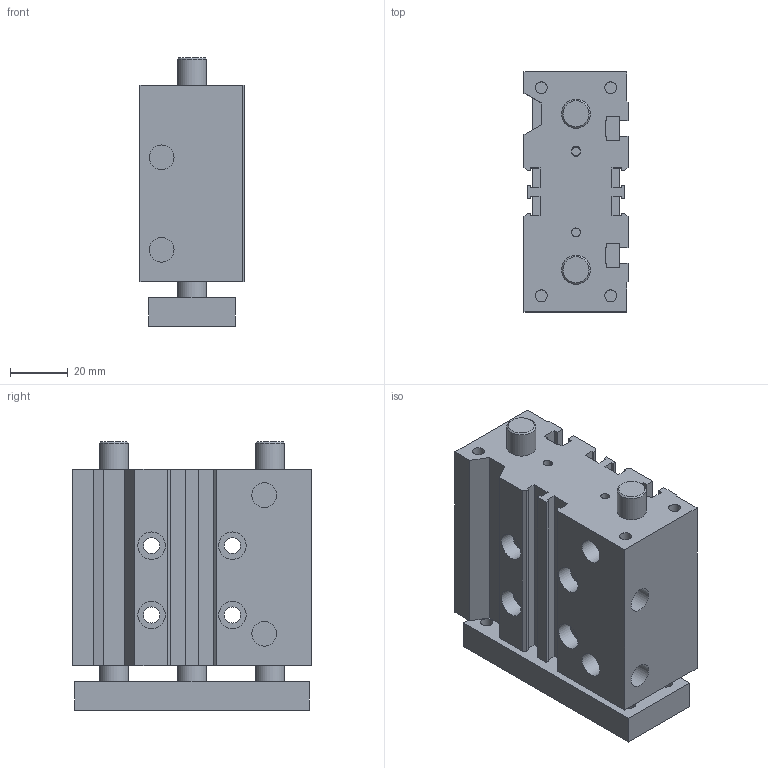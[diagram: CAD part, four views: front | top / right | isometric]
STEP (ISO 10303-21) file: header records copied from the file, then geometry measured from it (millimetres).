
FILE_DESCRIPTION((''),'2;1');
FILE_NAME('K:\A-Mauro\_Inventor\LIBRERIE\6100\6100_#_#_#\6100200030C.stp','2007-02-26T08:49:31',('valotma1'),(''),'Autodesk Inventor 11','Autodesk Inventor 11','');
FILE_SCHEMA(('AUTOMOTIVE_DESIGN { 1 0 10303 214 1 1 1 1 }'));
Length unit declared in the file: millimetre
Products named in the file (3): 6100200030C; CORPO Ø20 C30 C; PIASTRA Ø20 C30 C
Assembly tree (2 placements, depth 2):
  6100200030C
    CORPO Ø20 C30 C
    PIASTRA Ø20 C30 C
Bounding box: 36 x 83 x 93 mm (x, y, z)
Volume: 200362 mm3; surface area: 51203 mm2
Topology: 2 solids, 2 shells, 158 faces, 393 edges, 261 vertices
Faces by surface type: plane 95, bspline 52, cylinder 9, cone 2
Full cylindrical faces by diameter (mm): 10 x3
Entity records: 4932 total; most frequent: CARTESIAN_POINT 1329, ORIENTED_EDGE 702, DIRECTION 654, EDGE_CURVE 351, VECTOR 270, LINE 270, VERTEX_POINT 253, EDGE_LOOP 234
